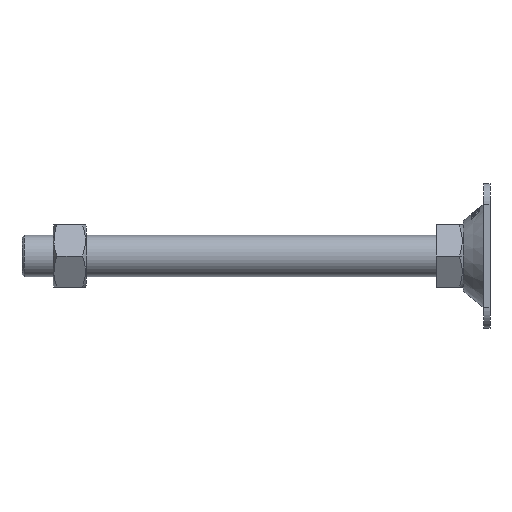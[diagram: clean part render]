
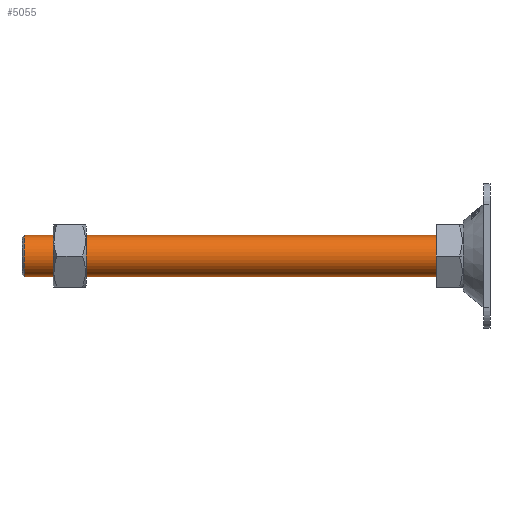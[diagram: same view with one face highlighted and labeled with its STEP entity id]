
A CAD part, left-side view. The second image highlights one B-rep face of the part: STEP entity #5055.
In plain terms, the highlighted cylindrical face has radius 10 mm (diameter 20 mm), a partial arc.
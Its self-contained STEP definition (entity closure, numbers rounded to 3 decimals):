
#71 = EDGE_CURVE ( 'NONE', #5369, #1621, #1648, .T. ) ;
#330 = FACE_OUTER_BOUND ( 'NONE', #5066, .T. ) ;
#403 = ORIENTED_EDGE ( 'NONE', *, *, #71, .T. ) ;
#717 = DIRECTION ( 'NONE',  ( 0., -1., 0. ) ) ;
#726 = EDGE_CURVE ( 'NONE', #1621, #6118, #3524, .T. ) ;
#786 = DIRECTION ( 'NONE',  ( 0., -1., 0. ) ) ;
#800 = CARTESIAN_POINT ( 'NONE',  ( 0., 13., -10. ) ) ;
#876 = CARTESIAN_POINT ( 'NONE',  ( 0., 212., 0. ) ) ;
#879 = VECTOR ( 'NONE', #3471, 1000. ) ;
#1047 = ORIENTED_EDGE ( 'NONE', *, *, #3348, .T. ) ;
#1113 = CARTESIAN_POINT ( 'NONE',  ( 0., 11., -10. ) ) ;
#1343 = AXIS2_PLACEMENT_3D ( 'NONE', #3289, #2438, #2319 ) ;
#1464 = CIRCLE ( 'NONE', #3950, 10. ) ;
#1621 = VERTEX_POINT ( 'NONE', #800 ) ;
#1648 = LINE ( 'NONE', #1113, #5605 ) ;
#1976 = LINE ( 'NONE', #3533, #879 ) ;
#2175 = ORIENTED_EDGE ( 'NONE', *, *, #3489, .F. ) ;
#2215 = DIRECTION ( 'NONE',  ( 0., 0., -1. ) ) ;
#2319 = DIRECTION ( 'NONE',  ( 0., 0., 1. ) ) ;
#2438 = DIRECTION ( 'NONE',  ( 0., 1., 0. ) ) ;
#3060 = CYLINDRICAL_SURFACE ( 'NONE', #4755, 10. ) ;
#3211 = DIRECTION ( 'NONE',  ( 0., 0., -1. ) ) ;
#3289 = CARTESIAN_POINT ( 'NONE',  ( 0., 13., 0. ) ) ;
#3348 = EDGE_CURVE ( 'NONE', #4230, #5369, #1464, .T. ) ;
#3471 = DIRECTION ( 'NONE',  ( 0., -1., 0. ) ) ;
#3489 = EDGE_CURVE ( 'NONE', #4230, #6118, #1976, .T. ) ;
#3524 = CIRCLE ( 'NONE', #1343, 10. ) ;
#3533 = CARTESIAN_POINT ( 'NONE',  ( 0., 11., 10. ) ) ;
#3825 = CARTESIAN_POINT ( 'NONE',  ( 0., 212., 10. ) ) ;
#3950 = AXIS2_PLACEMENT_3D ( 'NONE', #876, #4666, #3211 ) ;
#4088 = CARTESIAN_POINT ( 'NONE',  ( 0., 212., -10. ) ) ;
#4230 = VERTEX_POINT ( 'NONE', #3825 ) ;
#4296 = CARTESIAN_POINT ( 'NONE',  ( 0., 13., 10. ) ) ;
#4666 = DIRECTION ( 'NONE',  ( 0., -1., 0. ) ) ;
#4755 = AXIS2_PLACEMENT_3D ( 'NONE', #5042, #786, #2215 ) ;
#4895 = ORIENTED_EDGE ( 'NONE', *, *, #726, .T. ) ;
#5042 = CARTESIAN_POINT ( 'NONE',  ( 0., 11., 0. ) ) ;
#5055 = ADVANCED_FACE ( 'NONE', ( #330 ), #3060, .T. ) ;
#5066 = EDGE_LOOP ( 'NONE', ( #2175, #1047, #403, #4895 ) ) ;
#5369 = VERTEX_POINT ( 'NONE', #4088 ) ;
#5605 = VECTOR ( 'NONE', #717, 1000. ) ;
#6118 = VERTEX_POINT ( 'NONE', #4296 ) ;
